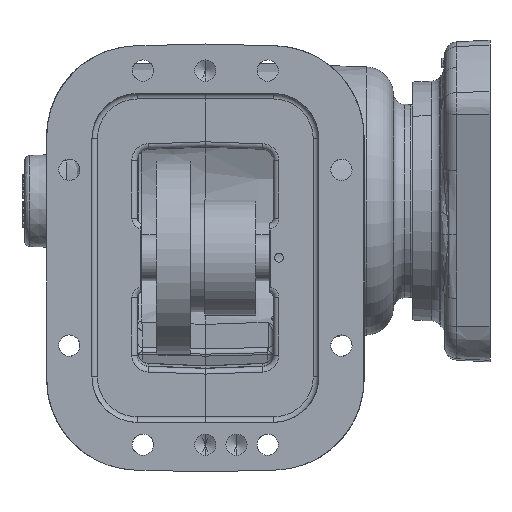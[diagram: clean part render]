
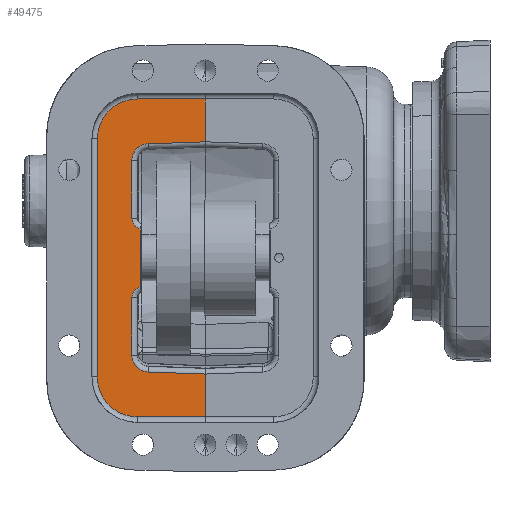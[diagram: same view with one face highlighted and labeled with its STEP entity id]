
A CAD part, front view. The second image highlights one B-rep face of the part: STEP entity #49475.
In plain terms, the highlighted planar face has unit normal (0, -1, 0).
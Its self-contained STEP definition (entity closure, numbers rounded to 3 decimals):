
#4976 = CARTESIAN_POINT ( 'NONE',  ( 22.99, -70.944, 78.158 ) ) ;
#4986 = CARTESIAN_POINT ( 'NONE',  ( 22.99, -70.944, 78.158 ) ) ;
#4988 = DIRECTION ( 'NONE',  ( 0., 0., -1. ) ) ;
#4989 = DIRECTION ( 'NONE',  ( 0., 0., -1. ) ) ;
#6909 = LINE ( 'NONE', #4976, #6920 ) ;
#6915 = LINE ( 'NONE', #4986, #6918 ) ;
#6918 = VECTOR ( 'NONE', #4988, 1000. ) ;
#6920 = VECTOR ( 'NONE', #4989, 1000. ) ;
#15519 = FACE_OUTER_BOUND ( 'NONE', #24130, .T. ) ;
#17938 = CARTESIAN_POINT ( 'NONE',  ( -9.088, -70.944, -103.222 ) ) ;
#17940 = CARTESIAN_POINT ( 'NONE',  ( 22.99, -70.944, -104.342 ) ) ;
#17941 = CARTESIAN_POINT ( 'NONE',  ( -18.158, -70.944, -93.83 ) ) ;
#17942 = CARTESIAN_POINT ( 'NONE',  ( -18.158, -70.944, -61.479 ) ) ;
#17950 = CARTESIAN_POINT ( 'NONE',  ( -13.332, -70.944, -55.516 ) ) ;
#17953 = CARTESIAN_POINT ( 'NONE',  ( -13.332, -70.944, -23.117 ) ) ;
#17955 = CARTESIAN_POINT ( 'NONE',  ( -18.158, -70.944, 15.197 ) ) ;
#17958 = CARTESIAN_POINT ( 'NONE',  ( -18.158, -70.944, -17.155 ) ) ;
#17959 = CARTESIAN_POINT ( 'NONE',  ( -9.088, -70.944, 24.589 ) ) ;
#17967 = CARTESIAN_POINT ( 'NONE',  ( 22.99, -70.944, 25.709 ) ) ;
#17990 = CARTESIAN_POINT ( 'NONE',  ( 22.99, -70.944, -128.344 ) ) ;
#17993 = CARTESIAN_POINT ( 'NONE',  ( -37.462, -70.944, -105.992 ) ) ;
#17995 = CARTESIAN_POINT ( 'NONE',  ( -15.11, -70.944, -128.344 ) ) ;
#17997 = CARTESIAN_POINT ( 'NONE',  ( -37.462, -70.944, 27.358 ) ) ;
#18001 = CARTESIAN_POINT ( 'NONE',  ( -15.11, -70.944, 49.71 ) ) ;
#18005 = CARTESIAN_POINT ( 'NONE',  ( 22.99, -70.944, 49.71 ) ) ;
#20683 = AXIS2_PLACEMENT_3D ( 'NONE', #92669, #92678, #92679 ) ;
#24130 = EDGE_LOOP ( 'NONE', ( #72394, #72395, #72396, #72397, #72398, #72399, #72400, #72401, #72402, #72403, #72404, #72405, #72406, #72407, #72408, #72409 ) ) ;
#49475 = ADVANCED_FACE ( 'NONE', ( #15519 ), #92676, .F. ) ;
#58206 = EDGE_CURVE ( 'NONE', #65684, #65788, #6915, .T. ) ;
#58207 = EDGE_CURVE ( 'NONE', #65814, #65738, #6909, .T. ) ;
#65680 = VERTEX_POINT ( 'NONE', #17938 ) ;
#65684 = VERTEX_POINT ( 'NONE', #17940 ) ;
#65686 = VERTEX_POINT ( 'NONE', #17941 ) ;
#65688 = VERTEX_POINT ( 'NONE', #17942 ) ;
#65704 = VERTEX_POINT ( 'NONE', #17950 ) ;
#65710 = VERTEX_POINT ( 'NONE', #17953 ) ;
#65714 = VERTEX_POINT ( 'NONE', #17955 ) ;
#65720 = VERTEX_POINT ( 'NONE', #17958 ) ;
#65722 = VERTEX_POINT ( 'NONE', #17959 ) ;
#65738 = VERTEX_POINT ( 'NONE', #17967 ) ;
#65786 = VERTEX_POINT ( 'NONE', #17993 ) ;
#65788 = VERTEX_POINT ( 'NONE', #17990 ) ;
#65792 = VERTEX_POINT ( 'NONE', #17995 ) ;
#65798 = VERTEX_POINT ( 'NONE', #17997 ) ;
#65806 = VERTEX_POINT ( 'NONE', #18001 ) ;
#65814 = VERTEX_POINT ( 'NONE', #18005 ) ;
#69103 = EDGE_CURVE ( 'NONE', #65684, #65680, #84315, .T. ) ;
#69117 = EDGE_CURVE ( 'NONE', #65680, #65686, #84326, .T. ) ;
#69131 = EDGE_CURVE ( 'NONE', #65686, #65688, #84331, .T. ) ;
#69145 = EDGE_CURVE ( 'NONE', #65688, #65704, #84343, .T. ) ;
#69162 = EDGE_CURVE ( 'NONE', #65704, #65710, #84351, .T. ) ;
#69180 = EDGE_CURVE ( 'NONE', #65710, #65720, #84358, .T. ) ;
#69192 = EDGE_CURVE ( 'NONE', #65720, #65714, #84363, .T. ) ;
#69206 = EDGE_CURVE ( 'NONE', #65714, #65722, #84374, .T. ) ;
#69220 = EDGE_CURVE ( 'NONE', #65722, #65738, #84383, .T. ) ;
#69367 = EDGE_CURVE ( 'NONE', #65786, #65792, #84429, .T. ) ;
#69372 = EDGE_CURVE ( 'NONE', #65792, #65788, #84427, .T. ) ;
#69381 = EDGE_CURVE ( 'NONE', #65798, #65786, #84437, .T. ) ;
#69395 = EDGE_CURVE ( 'NONE', #65806, #65798, #84447, .T. ) ;
#69409 = EDGE_CURVE ( 'NONE', #65814, #65806, #84453, .T. ) ;
#72394 = ORIENTED_EDGE ( 'NONE', *, *, #58206, .F. ) ;
#72395 = ORIENTED_EDGE ( 'NONE', *, *, #69103, .T. ) ;
#72396 = ORIENTED_EDGE ( 'NONE', *, *, #69117, .T. ) ;
#72397 = ORIENTED_EDGE ( 'NONE', *, *, #69131, .T. ) ;
#72398 = ORIENTED_EDGE ( 'NONE', *, *, #69145, .T. ) ;
#72399 = ORIENTED_EDGE ( 'NONE', *, *, #69162, .T. ) ;
#72400 = ORIENTED_EDGE ( 'NONE', *, *, #69180, .T. ) ;
#72401 = ORIENTED_EDGE ( 'NONE', *, *, #69192, .T. ) ;
#72402 = ORIENTED_EDGE ( 'NONE', *, *, #69206, .T. ) ;
#72403 = ORIENTED_EDGE ( 'NONE', *, *, #69220, .T. ) ;
#72404 = ORIENTED_EDGE ( 'NONE', *, *, #58207, .F. ) ;
#72405 = ORIENTED_EDGE ( 'NONE', *, *, #69409, .T. ) ;
#72406 = ORIENTED_EDGE ( 'NONE', *, *, #69395, .T. ) ;
#72407 = ORIENTED_EDGE ( 'NONE', *, *, #69381, .T. ) ;
#72408 = ORIENTED_EDGE ( 'NONE', *, *, #69367, .T. ) ;
#72409 = ORIENTED_EDGE ( 'NONE', *, *, #69372, .T. ) ;
#73129 = AXIS2_PLACEMENT_3D ( 'NONE', #86157, #86158, #86159 ) ;
#73144 = AXIS2_PLACEMENT_3D ( 'NONE', #86853, #86855, #86857 ) ;
#73168 = AXIS2_PLACEMENT_3D ( 'NONE', #86958, #86960, #86961 ) ;
#73180 = AXIS2_PLACEMENT_3D ( 'NONE', #87047, #87050, #87053 ) ;
#73237 = AXIS2_PLACEMENT_3D ( 'NONE', #88337, #88338, #88340 ) ;
#73250 = AXIS2_PLACEMENT_3D ( 'NONE', #88398, #88399, #88400 ) ;
#84315 = LINE ( 'NONE', #86138, #84322 ) ;
#84322 = VECTOR ( 'NONE', #86132, 1000. ) ;
#84326 = CIRCLE ( 'NONE', #73129, 9.398 ) ;
#84331 = LINE ( 'NONE', #86169, #84338 ) ;
#84338 = VECTOR ( 'NONE', #86156, 1000. ) ;
#84343 = CIRCLE ( 'NONE', #73144, 6.096 ) ;
#84351 = LINE ( 'NONE', #86893, #84354 ) ;
#84354 = VECTOR ( 'NONE', #86884, 1000. ) ;
#84358 = CIRCLE ( 'NONE', #73168, 6.096 ) ;
#84363 = LINE ( 'NONE', #86980, #84370 ) ;
#84370 = VECTOR ( 'NONE', #86947, 1000. ) ;
#84374 = CIRCLE ( 'NONE', #73180, 9.398 ) ;
#84383 = LINE ( 'NONE', #87101, #84386 ) ;
#84386 = VECTOR ( 'NONE', #87104, 1000. ) ;
#84427 = LINE ( 'NONE', #88343, #84433 ) ;
#84429 = CIRCLE ( 'NONE', #73237, 22.352 ) ;
#84433 = VECTOR ( 'NONE', #88335, 1000. ) ;
#84437 = LINE ( 'NONE', #88366, #84440 ) ;
#84440 = VECTOR ( 'NONE', #88367, 1000. ) ;
#84447 = CIRCLE ( 'NONE', #73250, 22.352 ) ;
#84453 = LINE ( 'NONE', #88433, #84456 ) ;
#84456 = VECTOR ( 'NONE', #88436, 1000. ) ;
#86132 = DIRECTION ( 'NONE',  ( -0.999, 0., 0.035 ) ) ;
#86138 = CARTESIAN_POINT ( 'NONE',  ( -9.088, -70.944, -103.222 ) ) ;
#86156 = DIRECTION ( 'NONE',  ( 0., 0., 1. ) ) ;
#86157 = CARTESIAN_POINT ( 'NONE',  ( -8.76, -70.944, -93.83 ) ) ;
#86158 = DIRECTION ( 'NONE',  ( 0., 1., 0. ) ) ;
#86159 = DIRECTION ( 'NONE',  ( 0., 0., 1. ) ) ;
#86169 = CARTESIAN_POINT ( 'NONE',  ( -18.158, -70.944, -61.479 ) ) ;
#86853 = CARTESIAN_POINT ( 'NONE',  ( -12.062, -70.944, -61.479 ) ) ;
#86855 = DIRECTION ( 'NONE',  ( 0., 1., 0. ) ) ;
#86857 = DIRECTION ( 'NONE',  ( 0., 0., 1. ) ) ;
#86884 = DIRECTION ( 'NONE',  ( 0., 0., 1. ) ) ;
#86893 = CARTESIAN_POINT ( 'NONE',  ( -13.332, -70.944, -23.117 ) ) ;
#86947 = DIRECTION ( 'NONE',  ( 0., 0., 1. ) ) ;
#86958 = CARTESIAN_POINT ( 'NONE',  ( -12.062, -70.944, -17.155 ) ) ;
#86960 = DIRECTION ( 'NONE',  ( 0., 1., 0. ) ) ;
#86961 = DIRECTION ( 'NONE',  ( 0., 0., 1. ) ) ;
#86980 = CARTESIAN_POINT ( 'NONE',  ( -18.158, -70.944, 15.197 ) ) ;
#87047 = CARTESIAN_POINT ( 'NONE',  ( -8.76, -70.944, 15.197 ) ) ;
#87050 = DIRECTION ( 'NONE',  ( 0., 1., 0. ) ) ;
#87053 = DIRECTION ( 'NONE',  ( 0., 0., 1. ) ) ;
#87101 = CARTESIAN_POINT ( 'NONE',  ( 22.884, -70.944, 25.706 ) ) ;
#87104 = DIRECTION ( 'NONE',  ( 0.999, 0., 0.035 ) ) ;
#88335 = DIRECTION ( 'NONE',  ( 1., 0., 0. ) ) ;
#88337 = CARTESIAN_POINT ( 'NONE',  ( -15.11, -70.944, -105.992 ) ) ;
#88338 = DIRECTION ( 'NONE',  ( 0., -1., 0. ) ) ;
#88340 = DIRECTION ( 'NONE',  ( 0., 0., 1. ) ) ;
#88343 = CARTESIAN_POINT ( 'NONE',  ( 22.99, -70.944, -128.344 ) ) ;
#88366 = CARTESIAN_POINT ( 'NONE',  ( -37.462, -70.944, -105.992 ) ) ;
#88367 = DIRECTION ( 'NONE',  ( 0., 0., -1. ) ) ;
#88398 = CARTESIAN_POINT ( 'NONE',  ( -15.11, -70.944, 27.358 ) ) ;
#88399 = DIRECTION ( 'NONE',  ( 0., -1., 0. ) ) ;
#88400 = DIRECTION ( 'NONE',  ( 0., 0., 1. ) ) ;
#88433 = CARTESIAN_POINT ( 'NONE',  ( -15.11, -70.944, 49.71 ) ) ;
#88436 = DIRECTION ( 'NONE',  ( -1., 0., 0. ) ) ;
#92669 = CARTESIAN_POINT ( 'NONE',  ( -65.91, -70.944, 78.158 ) ) ;
#92676 = PLANE ( 'NONE',  #20683 ) ;
#92678 = DIRECTION ( 'NONE',  ( 0., 1., 0. ) ) ;
#92679 = DIRECTION ( 'NONE',  ( 0., 0., 1. ) ) ;
